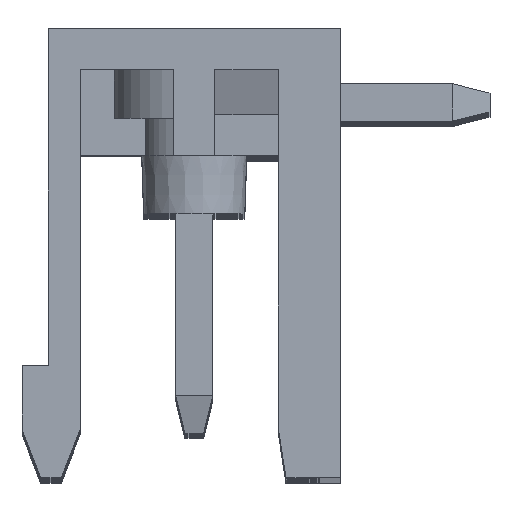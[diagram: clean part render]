
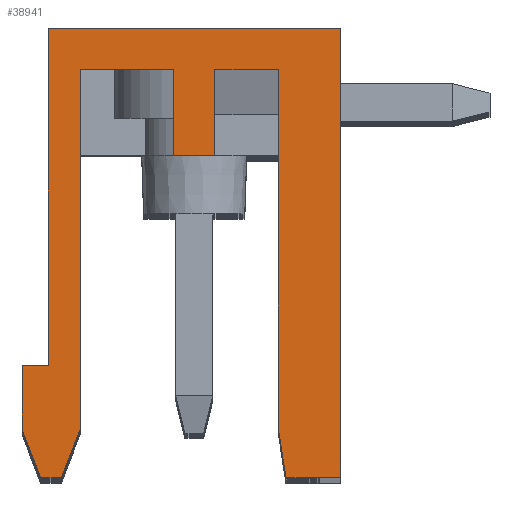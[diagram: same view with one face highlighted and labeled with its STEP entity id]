
A CAD part, top view. The second image highlights one B-rep face of the part: STEP entity #38941.
In plain terms, the highlighted planar face has unit normal (0, 0, 1).
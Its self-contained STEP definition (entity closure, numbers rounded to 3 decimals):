
#546 = VERTEX_POINT ( 'NONE', #24794 ) ;
#660 = VERTEX_POINT ( 'NONE', #1619 ) ;
#867 = VERTEX_POINT ( 'NONE', #6935 ) ;
#1237 = AXIS2_PLACEMENT_3D ( 'NONE', #28072, #18209, #8527 ) ;
#1258 = PLANE ( 'NONE',  #1237 ) ;
#1422 = EDGE_CURVE ( 'NONE', #35441, #15813, #22053, .T. ) ;
#1504 = LINE ( 'NONE', #14595, #15697 ) ;
#1584 = VECTOR ( 'NONE', #19420, 1000. ) ;
#1619 = CARTESIAN_POINT ( 'NONE',  ( -3.9, 3., 86.36 ) ) ;
#1936 = EDGE_LOOP ( 'NONE', ( #4347, #22438, #19116, #26368, #9665, #18306, #25525, #20814, #41320, #8820, #7117, #22871, #17667, #10502, #19679, #17052, #37981 ) ) ;
#2098 = DIRECTION ( 'NONE',  ( 0., -1., 0. ) ) ;
#2224 = VECTOR ( 'NONE', #13696, 1000. ) ;
#2469 = VERTEX_POINT ( 'NONE', #39748 ) ;
#2765 = EDGE_CURVE ( 'NONE', #30141, #39766, #36673, .T. ) ;
#3070 = VERTEX_POINT ( 'NONE', #6775 ) ;
#3513 = EDGE_CURVE ( 'NONE', #660, #10711, #42376, .T. ) ;
#3606 = EDGE_CURVE ( 'NONE', #9440, #21033, #13795, .T. ) ;
#3694 = CARTESIAN_POINT ( 'NONE',  ( 0.55, 10.9, 86.36 ) ) ;
#4347 = ORIENTED_EDGE ( 'NONE', *, *, #27061, .T. ) ;
#5127 = EDGE_CURVE ( 'NONE', #31661, #3070, #36309, .T. ) ;
#5290 = VECTOR ( 'NONE', #8666, 1000. ) ;
#5592 = VECTOR ( 'NONE', #24857, 1000. ) ;
#6076 = CARTESIAN_POINT ( 'NONE',  ( -4.1, 0., 86.36 ) ) ;
#6775 = CARTESIAN_POINT ( 'NONE',  ( -3.9, 12., 86.36 ) ) ;
#6908 = VECTOR ( 'NONE', #17341, 1000. ) ;
#6935 = CARTESIAN_POINT ( 'NONE',  ( 2.25, 10.9, 86.36 ) ) ;
#7039 = CARTESIAN_POINT ( 'NONE',  ( 2.25, 1.3, 86.36 ) ) ;
#7117 = ORIENTED_EDGE ( 'NONE', *, *, #26188, .T. ) ;
#7300 = VECTOR ( 'NONE', #41035, 1000. ) ;
#7607 = LINE ( 'NONE', #37665, #33894 ) ;
#8331 = CARTESIAN_POINT ( 'NONE',  ( 2.25, 1.3, 86.36 ) ) ;
#8527 = DIRECTION ( 'NONE',  ( 1., 0., 0. ) ) ;
#8666 = DIRECTION ( 'NONE',  ( -1., 0., 0. ) ) ;
#8820 = ORIENTED_EDGE ( 'NONE', *, *, #37489, .F. ) ;
#9042 = EDGE_CURVE ( 'NONE', #2469, #546, #27520, .T. ) ;
#9440 = VERTEX_POINT ( 'NONE', #24047 ) ;
#9665 = ORIENTED_EDGE ( 'NONE', *, *, #39019, .T. ) ;
#10502 = ORIENTED_EDGE ( 'NONE', *, *, #33579, .T. ) ;
#10535 = CARTESIAN_POINT ( 'NONE',  ( 3.9, 12., 86.36 ) ) ;
#10711 = VERTEX_POINT ( 'NONE', #24222 ) ;
#10804 = CARTESIAN_POINT ( 'NONE',  ( 2.45, 0., 86.36 ) ) ;
#10882 = LINE ( 'NONE', #17124, #6908 ) ;
#11084 = CARTESIAN_POINT ( 'NONE',  ( 3.9, 12., 86.36 ) ) ;
#11512 = DIRECTION ( 'NONE',  ( 0., -1., 0. ) ) ;
#13356 = LINE ( 'NONE', #3694, #31894 ) ;
#13696 = DIRECTION ( 'NONE',  ( 0.152, -0.988, 0. ) ) ;
#13795 = LINE ( 'NONE', #26894, #1584 ) ;
#13930 = VECTOR ( 'NONE', #20255, 1000. ) ;
#14259 = LINE ( 'NONE', #16853, #31538 ) ;
#14595 = CARTESIAN_POINT ( 'NONE',  ( -0.55, 10.9, 86.36 ) ) ;
#14822 = VECTOR ( 'NONE', #25312, 1000. ) ;
#15105 = CARTESIAN_POINT ( 'NONE',  ( -4.6, 1.3, 86.36 ) ) ;
#15177 = CARTESIAN_POINT ( 'NONE',  ( -3.55, 0., 86.36 ) ) ;
#15501 = VECTOR ( 'NONE', #37725, 1000. ) ;
#15697 = VECTOR ( 'NONE', #27688, 1000. ) ;
#15813 = VERTEX_POINT ( 'NONE', #15105 ) ;
#16752 = EDGE_CURVE ( 'NONE', #3070, #660, #7607, .T. ) ;
#16853 = CARTESIAN_POINT ( 'NONE',  ( -0.55, 10.9, 86.36 ) ) ;
#17052 = ORIENTED_EDGE ( 'NONE', *, *, #2765, .T. ) ;
#17124 = CARTESIAN_POINT ( 'NONE',  ( 3.9, 0., 86.36 ) ) ;
#17143 = CARTESIAN_POINT ( 'NONE',  ( 3.9, 0., 86.36 ) ) ;
#17341 = DIRECTION ( 'NONE',  ( 0., 1., 0. ) ) ;
#17460 = VERTEX_POINT ( 'NONE', #39301 ) ;
#17667 = ORIENTED_EDGE ( 'NONE', *, *, #9042, .T. ) ;
#17967 = LINE ( 'NONE', #40930, #24083 ) ;
#18209 = DIRECTION ( 'NONE',  ( 0., 0., 1. ) ) ;
#18306 = ORIENTED_EDGE ( 'NONE', *, *, #1422, .F. ) ;
#18704 = EDGE_CURVE ( 'NONE', #35441, #21033, #41922, .T. ) ;
#19096 = CARTESIAN_POINT ( 'NONE',  ( -4.1, 0., 86.36 ) ) ;
#19116 = ORIENTED_EDGE ( 'NONE', *, *, #16752, .T. ) ;
#19420 = DIRECTION ( 'NONE',  ( -0.359, -0.933, 0. ) ) ;
#19679 = ORIENTED_EDGE ( 'NONE', *, *, #27239, .T. ) ;
#20255 = DIRECTION ( 'NONE',  ( -1., 0., 0. ) ) ;
#20502 = DIRECTION ( 'NONE',  ( 0., -1., 0. ) ) ;
#20729 = EDGE_CURVE ( 'NONE', #39766, #37726, #35610, .T. ) ;
#20814 = ORIENTED_EDGE ( 'NONE', *, *, #3606, .F. ) ;
#20999 = LINE ( 'NONE', #34098, #36912 ) ;
#21033 = VERTEX_POINT ( 'NONE', #15177 ) ;
#21194 = CARTESIAN_POINT ( 'NONE',  ( -3.05, 10.9, 86.36 ) ) ;
#21852 = CARTESIAN_POINT ( 'NONE',  ( -4.1, 0., 86.36 ) ) ;
#21982 = CARTESIAN_POINT ( 'NONE',  ( 0.55, 8.6, 86.36 ) ) ;
#22053 = LINE ( 'NONE', #21852, #5592 ) ;
#22092 = CARTESIAN_POINT ( 'NONE',  ( 2.45, 0., 86.36 ) ) ;
#22438 = ORIENTED_EDGE ( 'NONE', *, *, #5127, .T. ) ;
#22871 = ORIENTED_EDGE ( 'NONE', *, *, #36588, .F. ) ;
#23061 = VERTEX_POINT ( 'NONE', #32782 ) ;
#23662 = DIRECTION ( 'NONE',  ( 1., 0., 0. ) ) ;
#24047 = CARTESIAN_POINT ( 'NONE',  ( -3.05, 1.3, 86.36 ) ) ;
#24083 = VECTOR ( 'NONE', #11512, 1000. ) ;
#24222 = CARTESIAN_POINT ( 'NONE',  ( -4.6, 3., 86.36 ) ) ;
#24794 = CARTESIAN_POINT ( 'NONE',  ( 0.55, 10.9, 86.36 ) ) ;
#24824 = VERTEX_POINT ( 'NONE', #26706 ) ;
#24857 = DIRECTION ( 'NONE',  ( -0.359, 0.933, 0. ) ) ;
#25192 = DIRECTION ( 'NONE',  ( 1., 0., 0. ) ) ;
#25205 = LINE ( 'NONE', #21982, #5290 ) ;
#25312 = DIRECTION ( 'NONE',  ( 1., 0., 0. ) ) ;
#25525 = ORIENTED_EDGE ( 'NONE', *, *, #18704, .T. ) ;
#26188 = EDGE_CURVE ( 'NONE', #24824, #17460, #14259, .T. ) ;
#26368 = ORIENTED_EDGE ( 'NONE', *, *, #3513, .T. ) ;
#26706 = CARTESIAN_POINT ( 'NONE',  ( -0.55, 10.9, 86.36 ) ) ;
#26894 = CARTESIAN_POINT ( 'NONE',  ( -3.05, 1.3, 86.36 ) ) ;
#27061 = EDGE_CURVE ( 'NONE', #37726, #31661, #10882, .T. ) ;
#27239 = EDGE_CURVE ( 'NONE', #867, #30141, #17967, .T. ) ;
#27520 = LINE ( 'NONE', #27731, #7300 ) ;
#27688 = DIRECTION ( 'NONE',  ( -1., 0., 0. ) ) ;
#27731 = CARTESIAN_POINT ( 'NONE',  ( 0.55, 8.6, 86.36 ) ) ;
#27779 = DIRECTION ( 'NONE',  ( 0., -1., 0. ) ) ;
#28072 = CARTESIAN_POINT ( 'NONE',  ( -10.2, 16.267, 86.36 ) ) ;
#28286 = FACE_OUTER_BOUND ( 'NONE', #1936, .T. ) ;
#30141 = VERTEX_POINT ( 'NONE', #8331 ) ;
#30433 = LINE ( 'NONE', #21194, #15501 ) ;
#31538 = VECTOR ( 'NONE', #20502, 1000. ) ;
#31661 = VERTEX_POINT ( 'NONE', #11084 ) ;
#31894 = VECTOR ( 'NONE', #23662, 1000. ) ;
#32782 = CARTESIAN_POINT ( 'NONE',  ( -3.05, 10.9, 86.36 ) ) ;
#33579 = EDGE_CURVE ( 'NONE', #546, #867, #13356, .T. ) ;
#33829 = VECTOR ( 'NONE', #39326, 1000. ) ;
#33894 = VECTOR ( 'NONE', #27779, 1000. ) ;
#34098 = CARTESIAN_POINT ( 'NONE',  ( -4.6, 3., 86.36 ) ) ;
#35441 = VERTEX_POINT ( 'NONE', #19096 ) ;
#35610 = LINE ( 'NONE', #22092, #14822 ) ;
#35703 = EDGE_CURVE ( 'NONE', #23061, #9440, #30433, .T. ) ;
#36060 = VECTOR ( 'NONE', #25192, 1000. ) ;
#36309 = LINE ( 'NONE', #10535, #33829 ) ;
#36588 = EDGE_CURVE ( 'NONE', #2469, #17460, #25205, .T. ) ;
#36673 = LINE ( 'NONE', #7039, #2224 ) ;
#36912 = VECTOR ( 'NONE', #2098, 1000. ) ;
#37489 = EDGE_CURVE ( 'NONE', #24824, #23061, #1504, .T. ) ;
#37665 = CARTESIAN_POINT ( 'NONE',  ( -3.9, 12., 86.36 ) ) ;
#37725 = DIRECTION ( 'NONE',  ( 0., -1., 0. ) ) ;
#37726 = VERTEX_POINT ( 'NONE', #17143 ) ;
#37981 = ORIENTED_EDGE ( 'NONE', *, *, #20729, .T. ) ;
#38941 = ADVANCED_FACE ( 'NONE', ( #28286 ), #1258, .T. ) ;
#39019 = EDGE_CURVE ( 'NONE', #10711, #15813, #20999, .T. ) ;
#39301 = CARTESIAN_POINT ( 'NONE',  ( -0.55, 8.6, 86.36 ) ) ;
#39326 = DIRECTION ( 'NONE',  ( -1., 0., 0. ) ) ;
#39367 = CARTESIAN_POINT ( 'NONE',  ( -3.9, 3., 86.36 ) ) ;
#39748 = CARTESIAN_POINT ( 'NONE',  ( 0.55, 8.6, 86.36 ) ) ;
#39766 = VERTEX_POINT ( 'NONE', #10804 ) ;
#40930 = CARTESIAN_POINT ( 'NONE',  ( 2.25, 10.9, 86.36 ) ) ;
#41035 = DIRECTION ( 'NONE',  ( 0., 1., 0. ) ) ;
#41320 = ORIENTED_EDGE ( 'NONE', *, *, #35703, .F. ) ;
#41922 = LINE ( 'NONE', #6076, #36060 ) ;
#42376 = LINE ( 'NONE', #39367, #13930 ) ;
